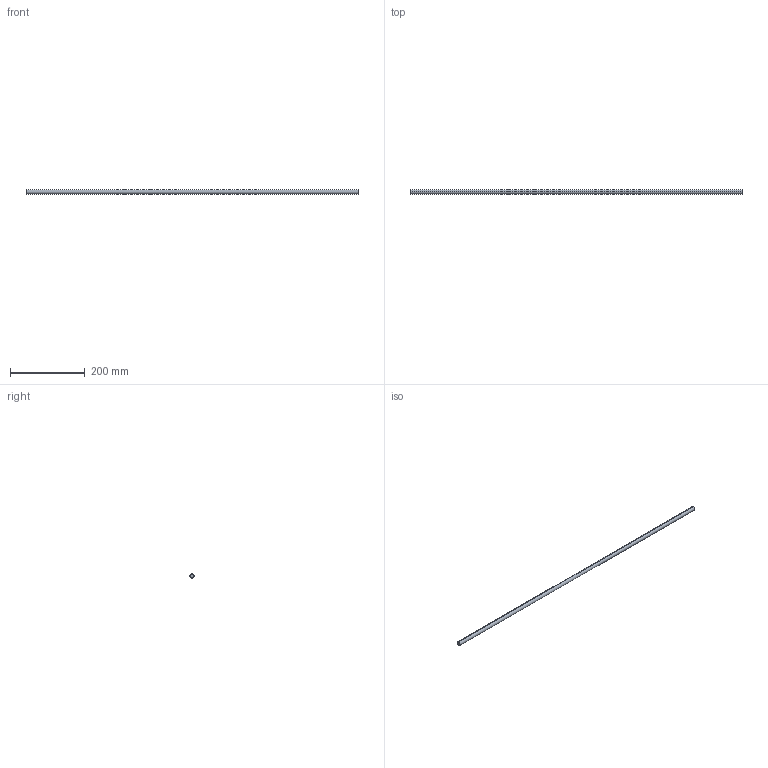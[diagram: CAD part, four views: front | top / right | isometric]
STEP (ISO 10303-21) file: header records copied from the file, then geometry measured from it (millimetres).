
FILE_DESCRIPTION (( 'STEP AP214' ), '1' );
FILE_NAME ('Querreling_Frontblende_Innenlade_KS-16_25mm-Halter_KAB-1000.step', '2010-09-22T15:05:41', ( 'grass' ), ( '' ), 'SwSTEP 2.0', 'SolidWorks 2010', '' );
FILE_SCHEMA (( 'AUTOMOTIVE_DESIGN' ));
Length unit declared in the file: millimetre
Products named in the file (1): Querreling_Frontblende_Innenlade_KS-16_25mm-Halter_KAB-1000
Bounding box: 890 x 11 x 11 mm (x, y, z)
Volume: 84579.5 mm3; surface area: 30946.3 mm2
Topology: 1 solids, 1 shells, 4 faces, 6 edges, 4 vertices
Faces by surface type: cylinder 2, plane 2
Entity records: 128 total; most frequent: DIRECTION 20, CARTESIAN_POINT 15, ORIENTED_EDGE 12, AXIS2_PLACEMENT_3D 9, EDGE_CURVE 6, EDGE_LOOP 4, FACE_OUTER_BOUND 4, CIRCLE 4
